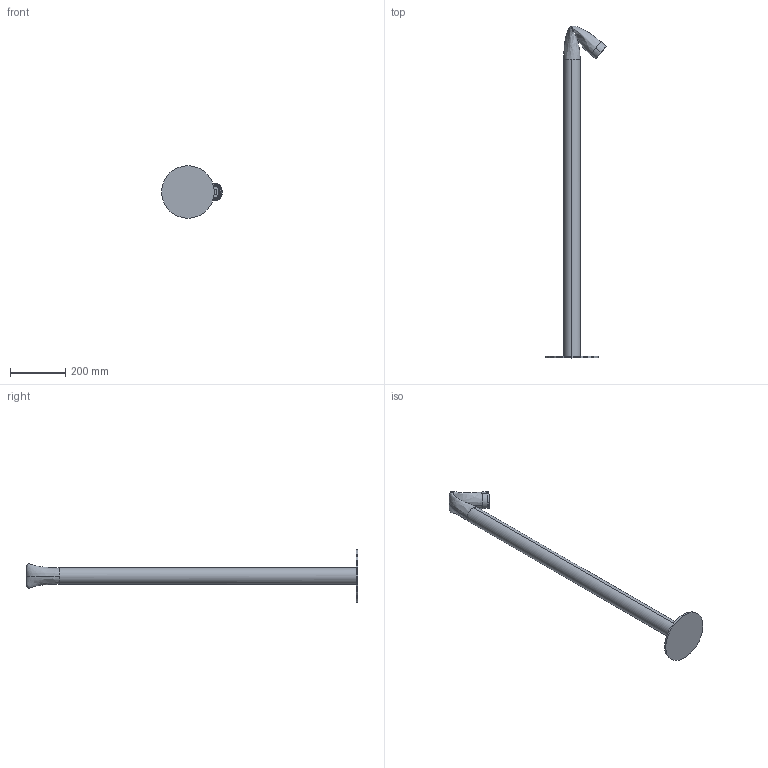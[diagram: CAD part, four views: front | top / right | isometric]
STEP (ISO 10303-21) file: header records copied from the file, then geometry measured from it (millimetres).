
FILE_DESCRIPTION (( 'STEP AP203' ), '1' );
FILE_NAME ('PTBENDER120.STEP', '2025-06-20T08:47:44', ( '' ), ( '' ), 'SwSTEP 2.0', 'SolidWorks 2024', '' );
FILE_SCHEMA (( 'CONFIG_CONTROL_DESIGN' ));
Length unit declared in the file: millimetre
Products named in the file (1): PTBENDER120
Bounding box: 219.23 x 1199.99 x 190 mm (x, y, z)
Surface area: 317203.5 mm2 (no closed solid volume)
Topology: 0 solids, 7 shells, 385 faces, 1010 edges, 605 vertices
Faces by surface type: bspline 180, plane 57, cylinder 54, cone 32, sphere 32, torus 30
Entity records: 28107 total; most frequent: CARTESIAN_POINT 21274, ORIENTED_EDGE 1924, EDGE_CURVE 977, B_SPLINE_CURVE_WITH_KNOTS 933, VERTEX_POINT 602, DIRECTION 480, EDGE_LOOP 391, FACE_OUTER_BOUND 385
